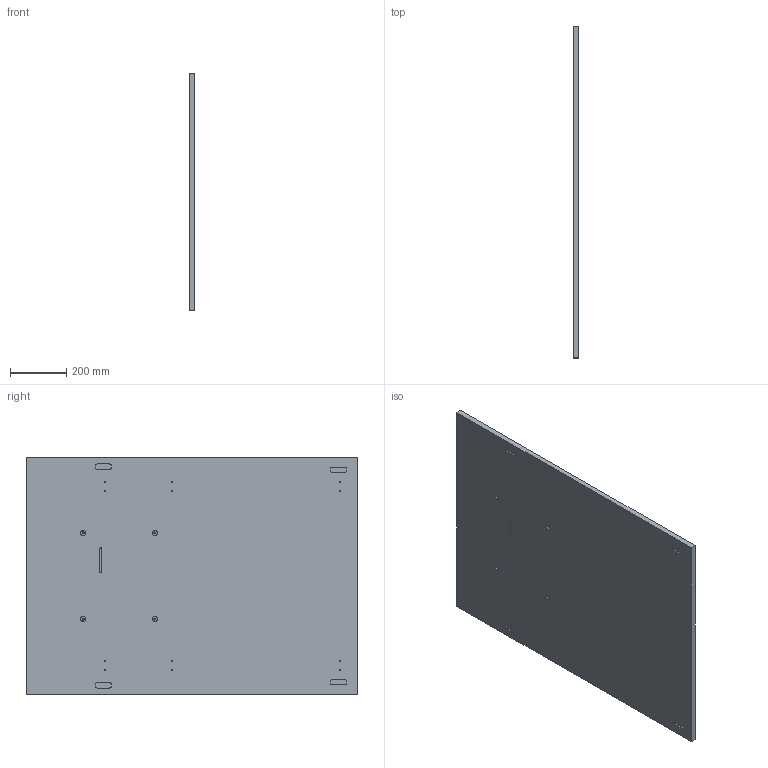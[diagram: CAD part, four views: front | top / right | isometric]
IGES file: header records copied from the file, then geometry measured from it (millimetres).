
Start section:  PTC IGES file: l5f_33w_rear.igs
Global section: file name: l5f_33w_rear.igs; native system: Creo Parametric by Parametric Technology Corporation; preprocessor: 2014310; author: mkothari; organization: Unknown; date: 20151002.174833; units: inch
Bounding box: 19.05 x 1174.75 x 841.38 mm (x, y, z)
Volume: 18792967.6 mm3; surface area: 2061733.7 mm2
Topology: 1 solids, 1 shells, 107 faces, 240 edges, 160 vertices
Faces by surface type: bspline 107
